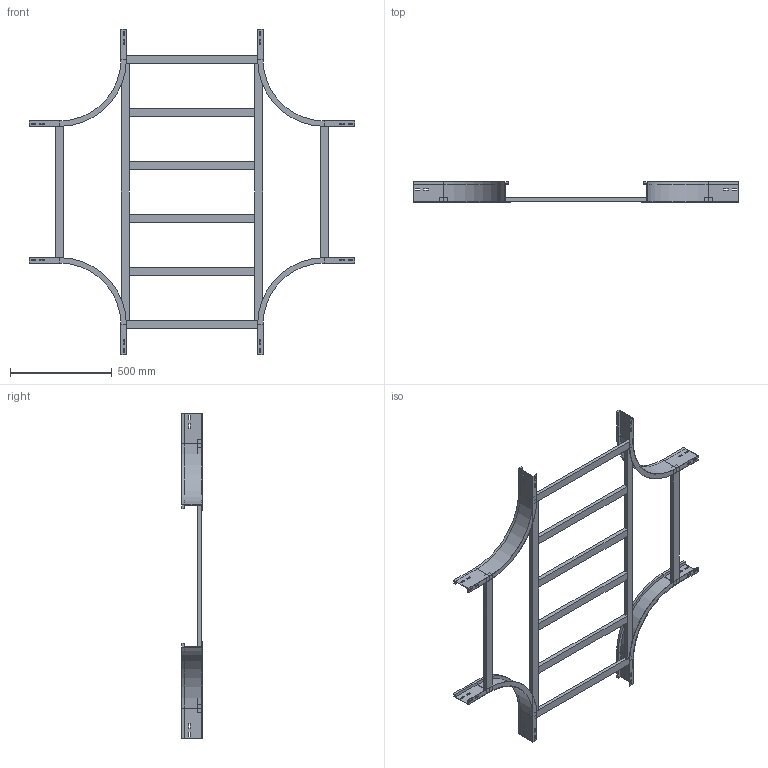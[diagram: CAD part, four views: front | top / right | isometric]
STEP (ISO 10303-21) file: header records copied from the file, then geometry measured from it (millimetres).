
FILE_DESCRIPTION (( 'STEP AP214' ), '1' );
FILE_NAME ('A2_17B3D700.step', '2025-02-21T15:55:14', ( '' ), ( '' ), 'SwSTEP 2.0', 'SolidWorks 2023', '' );
FILE_SCHEMA (( 'AUTOMOTIVE_DESIGN' ));
Length unit declared in the file: millimetre
Products named in the file (5): TRAVERSINO_700; TRAVERSINO_INTERMEDIO_R300+700; A2_LONGH.INTERNO 90°_H100_R300; A2_TRAVERSINO_LONG._R300+700; A2_17B3D700
Assembly tree (14 placements, depth 2):
  A2_17B3D700
    A2_LONGH.INTERNO 90°_H100_R300  x4
    TRAVERSINO_700  x4
    A2_TRAVERSINO_LONG._R300+700  x2
    TRAVERSINO_INTERMEDIO_R300+700  x4
Bounding box: 1600 x 100 x 1600 mm (x, y, z)
Volume: 7659600 mm3; surface area: 1844580.5 mm2
Topology: 14 solids, 14 shells, 292 faces, 728 edges, 464 vertices
Faces by surface type: plane 276, cylinder 16
Entity records: 2458 total; most frequent: CARTESIAN_POINT 401, DIRECTION 382, ORIENTED_EDGE 376, EDGE_CURVE 188, VECTOR 180, LINE 180, VERTEX_POINT 120, AXIS2_PLACEMENT_3D 101
